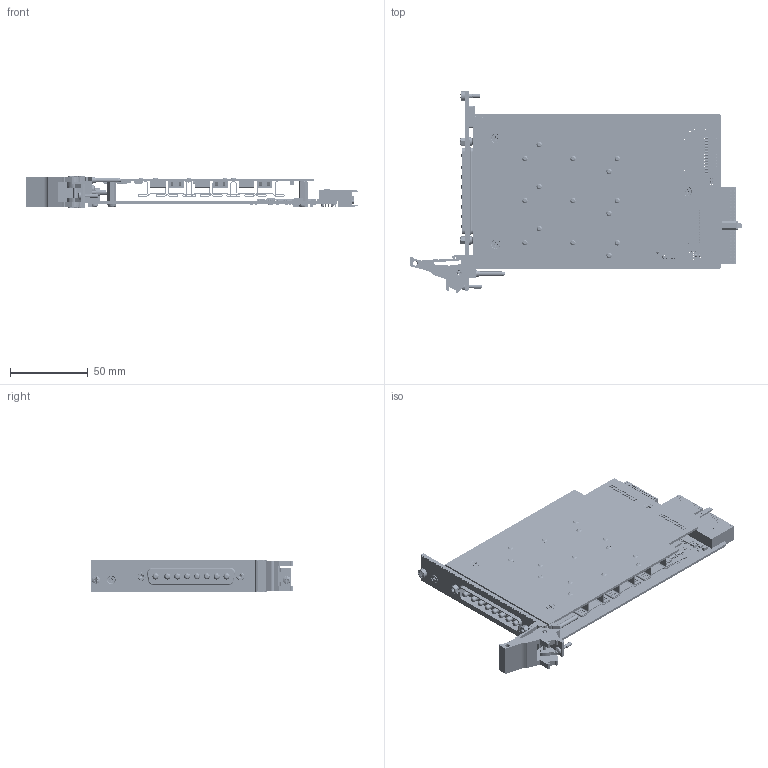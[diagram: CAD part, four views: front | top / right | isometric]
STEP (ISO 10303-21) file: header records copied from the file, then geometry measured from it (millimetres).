
FILE_DESCRIPTION (( 'STEP AP214' ), '1' );
FILE_NAME ('40-182A-012 PXI Solid State Switch Module 3xSPST 10A.STEP', '2023-12-20T16:29:28', ( '' ), ( '' ), 'SwSTEP 2.0', 'SolidWorks 2023', '' );
FILE_SCHEMA (( 'AUTOMOTIVE_DESIGN' ));
Length unit declared in the file: millimetre
Products named in the file (83): C-CN-739 Header 2 X 12 WAY MALE PCB SMT; C-IC-385 SOICN 8PIN SD_No Text; C-CN-073 WASHER plain; C-CP-124 CAP 10nF CERAMIC SMT 0402; C-RS-760 RES 1K5 0603 200PPM; C-IC-577 8 Pins DUAL VOLTAGE SUPERVISOR 3.3V 2; C-CN-073-SPRING WASHER; C-RS-1207 RES 11K 0603 0.063W 0.1% 25PPM; C-CN-982 2 X 12 RIBBON_END ASSEMBLYTLEAD STYLE1POSITIONS12; C-FX-165 Handle Body; C-FX-165 CPCI Ejector Handle; C-RS-254 Res  0603; C-IC-369 FPGA 17000 Cells 65nm Technology 1.2V 256-Pin FTBGA; C-MS-803 BEAD 120R 0603 2A 0R05 25%; C-PC-1253 VERSATILE MOTHER BOARD; C-IC-458 LDO VOLTAGE REGULATOR 1.2V SOT; C-CP-034; L-FP-748-# PXI 1 Slot 10A FP Label; C-RS-659 RES NW 4K7 4RES 8PINS SMT1206; C-CN-355 Compact pci connector 3_Render; C-IC-364 IC Gate 1CH SOT23-5; C-FX-1089 M3 x 13mm A-F 5mm Threaded Hexagon Spacer; A-PC-878-D 10A SPST DAUGHTER CARD; C-CN-073 Screwlock 8mm Screw Lenght_Space for 1.3 mm; C-SC-157 DIODE SCHOTTKY SIGNAL; C-FX-042 Screw M2.5x6 CSK Pozi_M 2.5x06 - C-FX-042; C-CN-107-BODY; L-FX-165 PXI Handle Label; C-RS-147 Res 100R 0603 1-16W 1% 100PPM; C-CN-473 8 Way D Plug; C-MS-324 HEAT SINK FOR D-PAK 29.3C; C-IC-598 64Mbit Flash Memory 8-Pin SOIC; C-FX-165 Handle Pin; C-RS-148 Res 1K 0603 1-16W 1% 100PPM; C-CN-107-PIN; C-RS-190 Res 0R0 SIZE 0603 SMT; C-FP-748 PXI 1 Slot 10A Front Panel; C-RS-636 RES 10K (0603) 1-16W 1% 100ppm; C-FX-273 M3 X 6 SLOTTED PAN SCREW; A-PC-1253 PXI VERSATILE MOTHER BOARD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
Assembly tree (275 placements, depth 5):
  40-182A-012 PXI Solid State Switch Module 3xSPST 10A
    A-PC-1253 PXI VERSATILE MOTHER BOARD
      A-PC-1253-# PXI VERSATILE MOTHER BOARD
        C-PC-1253 VERSATILE MOTHER BOARD
        C-RS-756 RES 0R 0603  200PPM  x17
        C-IC-489 F-RAM Semiconductor Serial-I2C FRAM Memory 512kbit 2-3.6 V 8-Pin SOIC
        C-CP-034  x16
        C-RS-152 Res 10K 0603 1-16W 1% 300PPM  x2
        C-RS-190 Res 0R0 SIZE 0603 SMT
        C-IC-603 Analogue IC
        C-IC-577 8 Pins DUAL VOLTAGE SUPERVISOR 3.3V 2
        C-RS-636 RES 10K (0603) 1-16W 1% 100ppm  x2
        C-RS-614 Resistor 63K4 (0603) SMT
        C-SC-055 Zener Diode
        C-SC-157 DIODE SCHOTTKY SIGNAL  x3
        C-CP-124 CAP 10nF CERAMIC SMT 0402  x30
        C-CP-099 CAP 0.1uF 16V 0402 SMT  x12
        C-RS-605 Res 22K (0603) SMT  x4
        C-RS-1207 RES 11K 0603 0.063W 0.1% 25PPM  x4
        C-SC-146 Dual Transistor SOT-14  x2
        C-MS-803 BEAD 120R 0603 2A 0R05 25%  x2
        C-CN-1071
          C-CN-107-BODY
          C-CN-107-PIN  x8
        C-CP-141 CAP 10UF 1206 35V X5R 10%  x7
        C-CP-239  Power Line Filter  x2
        C-CP-139 CAP 4.7UF 1206 16V X7R 10%  x2
        C-IC-185 Bus Transceivers Octal 3-STATE Trans IC  x2
        C-CN-739 Header 2 X 12 WAY MALE PCB SMT
        C-IC-425 SOICN 8PIN SD
        C-IC-598 64Mbit Flash Memory 8-Pin SOIC
        C-CP-175 CAP 22uF 1206 25V X5R 10%  x2
        C-IC-369 FPGA 17000 Cells 65nm Technology 1.2V 256-Pin FTBGA
        C-RS-521 Res 120R (0603) 1-16W 1% 100pp
        C-RS-148 Res 1K 0603 1-16W 1% 100PPM  x2
        C-RS-659 RES NW 4K7 4RES 8PINS SMT1206  x4
        C-IC-546 24 BIT BUS SWITCH 56PIN TVSOP  x2
        C-CN-355 Compact pci connector 3_Render
        C-CP-134 CAP 1uF CERAMIC SMT 0805  x2
        C-RS-147 Res 100R 0603 1-16W 1% 100PPM
        C-IC-385 SOICN 8PIN SD_No Text
        C-IC-458 LDO VOLTAGE REGULATOR 1.2V SOT
    A-PC-878-D 10A SPST DAUGHTER CARD
      A-PC-878-D-# 10A SPST DAUGHTER CARD
        C-PC-878 Fault Insertion Daughter PCB
        C-SC-133 MOSFET N D2-PAK  x18
        C-MS-324 HEAT SINK FOR D-PAK 29.3C  x18
        C-IC-364 IC Gate 1CH SOT23-5  x3
        C-IC-340 DUAL CHANNEL ISOLATOR  x3
        C-IC-124 16-Bit Constant Current Sink Driver  x2
        C-RS-254 Res  0603  x6
        C-RS-760 RES 1K5 0603 200PPM  x2
        C-MS-853 IND 47nH 0603 0.4A 0R6 5%  x12
        C-CP-034  x11
        C-CP-147 CAP 10Uf 1210 16V X7R 10%
        C-CP-134 CAP 1uF CERAMIC SMT 0805  x3
    A-FP-748-L1 PXI 10A FP Full Assembly
      A-FP-748 PXI 1 Slot 10A FP + Label Assembly
        C-FP-748 PXI 1 Slot 10A Front Panel
          C-BP-015 PXI 3U x 1 Slot Blank Panel
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Bounding box: 213.7 x 129.63 x 20 mm (x, y, z)
Volume: 87925.2 mm3; surface area: 129689.4 mm2
Topology: 311 solids, 344 shells, 19858 faces, 50419 edges, 32220 vertices
Faces by surface type: plane 12913, cylinder 5632, torus 743, cone 381, bspline 161, sphere 28
Entity records: 442229 total; most frequent: CARTESIAN_POINT 61759, DIRECTION 58802, ORIENTED_EDGE 55496, EDGE_CURVE 27752, AXIS2_PLACEMENT_3D 20008, VECTOR 18786, LINE 18786, VERTEX_POINT 17575
